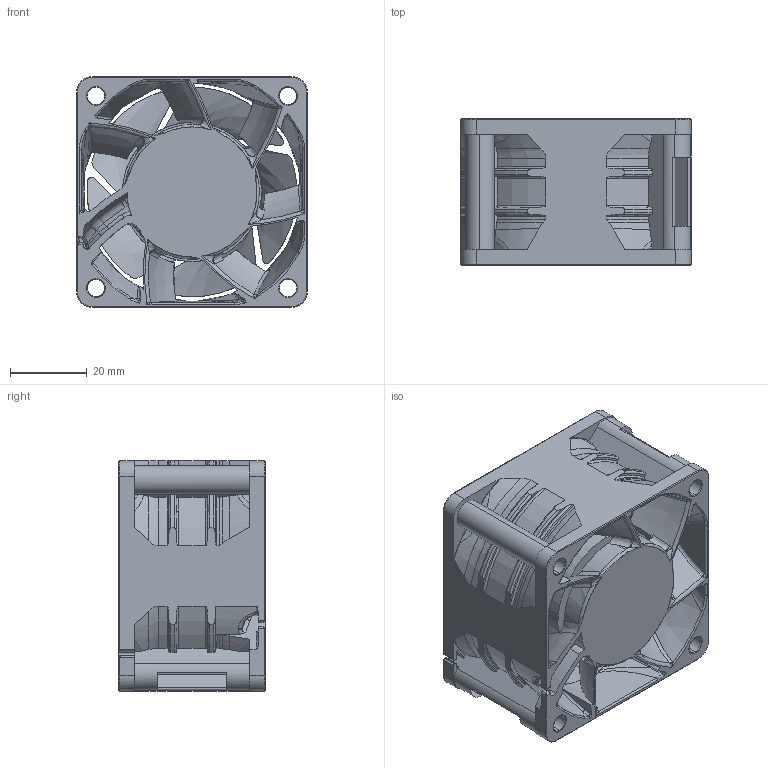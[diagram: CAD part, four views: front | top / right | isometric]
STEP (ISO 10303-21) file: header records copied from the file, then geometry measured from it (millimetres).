
FILE_DESCRIPTION (( 'STEP AP203' ), '1' );
FILE_NAME ('6038GA_RIBBED.STEP', '2017-03-23T05:09:10', ( '' ), ( '' ), 'SwSTEP 2.0', 'SolidWorks 2017', '' );
FILE_SCHEMA (( 'CONFIG_CONTROL_DESIGN' ));
Length unit declared in the file: millimetre
Products named in the file (1): 6038GA_RIBBED
Bounding box: 60 x 38 x 60 mm (x, y, z)
Volume: 61338.2 mm3; surface area: 33358.7 mm2
Topology: 1 solids, 1 shells, 805 faces, 2279 edges, 1470 vertices
Faces by surface type: bspline 299, cylinder 197, plane 138, torus 130, cone 41
Entity records: 48153 total; most frequent: CARTESIAN_POINT 31418, ORIENTED_EDGE 4554, EDGE_CURVE 2277, DIRECTION 1972, B_SPLINE_CURVE_WITH_KNOTS 1505, VERTEX_POINT 1470, EDGE_LOOP 827, ADVANCED_FACE 805
